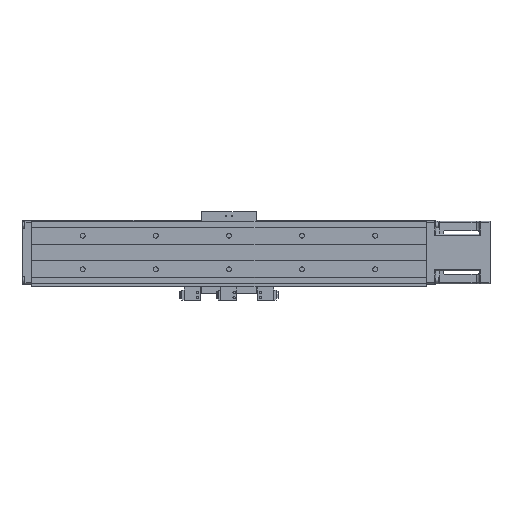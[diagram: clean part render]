
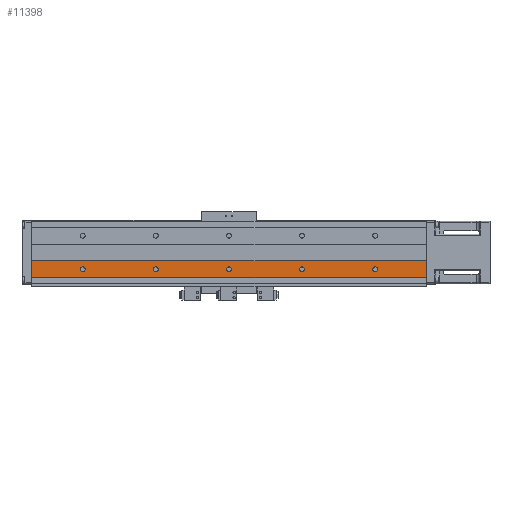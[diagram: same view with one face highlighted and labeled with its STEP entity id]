
A CAD part, front view. The second image highlights one B-rep face of the part: STEP entity #11398.
In plain terms, the highlighted planar face has unit normal (0, -1, 0).
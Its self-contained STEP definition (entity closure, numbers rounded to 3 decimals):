
#216 = DIRECTION ( 'NONE',  ( 0., 1., 0. ) ) ;
#590 = EDGE_CURVE ( 'NONE', #11312, #1572, #32945, .T. ) ;
#594 = AXIS2_PLACEMENT_3D ( 'NONE', #18806, #9737, #21995 ) ;
#825 = ORIENTED_EDGE ( 'NONE', *, *, #38059, .T. ) ;
#1175 = EDGE_LOOP ( 'NONE', ( #17143, #825 ) ) ;
#1501 = FACE_BOUND ( 'NONE', #4646, .T. ) ;
#1572 = VERTEX_POINT ( 'NONE', #38592 ) ;
#2042 = DIRECTION ( 'NONE',  ( 0., 1., 0. ) ) ;
#2384 = EDGE_CURVE ( 'NONE', #15456, #17211, #25882, .T. ) ;
#2502 = DIRECTION ( 'NONE',  ( 0., 1., 0. ) ) ;
#2575 = VERTEX_POINT ( 'NONE', #32024 ) ;
#2936 = EDGE_LOOP ( 'NONE', ( #40345, #31156, #23072, #20470 ) ) ;
#3258 = CARTESIAN_POINT ( 'NONE',  ( -50., -32., -26.3 ) ) ;
#3829 = VERTEX_POINT ( 'NONE', #4199 ) ;
#3921 = DIRECTION ( 'NONE',  ( 0., 1., 0. ) ) ;
#4080 = CARTESIAN_POINT ( 'NONE',  ( 220., -32., -33.6 ) ) ;
#4199 = CARTESIAN_POINT ( 'NONE',  ( 220., -32., -11.5 ) ) ;
#4334 = CARTESIAN_POINT ( 'NONE',  ( -520., -32., -34. ) ) ;
#4646 = EDGE_LOOP ( 'NONE', ( #35735, #19713 ) ) ;
#4862 = DIRECTION ( 'NONE',  ( 0., 1., 0. ) ) ;
#5382 = AXIS2_PLACEMENT_3D ( 'NONE', #39584, #4862, #32836 ) ;
#5426 = EDGE_LOOP ( 'NONE', ( #7543, #20273 ) ) ;
#5612 = CARTESIAN_POINT ( 'NONE',  ( -150., -32., -26.3 ) ) ;
#6283 = CARTESIAN_POINT ( 'NONE',  ( -150., -32., -19.7 ) ) ;
#6465 = CARTESIAN_POINT ( 'NONE',  ( 50., -32., -19.7 ) ) ;
#6818 = VECTOR ( 'NONE', #19924, 1000. ) ;
#7031 = AXIS2_PLACEMENT_3D ( 'NONE', #7094, #3921, #13583 ) ;
#7094 = CARTESIAN_POINT ( 'NONE',  ( -50., -32., -23. ) ) ;
#7264 = DIRECTION ( 'NONE',  ( 0., -1., 0. ) ) ;
#7543 = ORIENTED_EDGE ( 'NONE', *, *, #2384, .T. ) ;
#8601 = CARTESIAN_POINT ( 'NONE',  ( -320., -32., -11.5 ) ) ;
#9439 = VERTEX_POINT ( 'NONE', #5612 ) ;
#9737 = DIRECTION ( 'NONE',  ( 0., 1., 0. ) ) ;
#10202 = CARTESIAN_POINT ( 'NONE',  ( 150., -32., -26.3 ) ) ;
#10204 = CIRCLE ( 'NONE', #5382, 3.3 ) ;
#10327 = CIRCLE ( 'NONE', #32557, 3.3 ) ;
#10384 = FACE_BOUND ( 'NONE', #14680, .T. ) ;
#10774 = CIRCLE ( 'NONE', #27511, 3.3 ) ;
#11312 = VERTEX_POINT ( 'NONE', #28521 ) ;
#11398 = ADVANCED_FACE ( 'NONE', ( #20269, #1501, #10384, #33054, #36047, #29138 ), #16639, .T. ) ;
#13244 = EDGE_CURVE ( 'NONE', #35108, #28998, #28516, .T. ) ;
#13329 = DIRECTION ( 'NONE',  ( 0., 0., -1. ) ) ;
#13381 = AXIS2_PLACEMENT_3D ( 'NONE', #18249, #15111, #37671 ) ;
#13450 = DIRECTION ( 'NONE',  ( 0., 0., 1. ) ) ;
#13583 = DIRECTION ( 'NONE',  ( 0., 0., -1. ) ) ;
#13953 = CARTESIAN_POINT ( 'NONE',  ( -320., -32., -34. ) ) ;
#14680 = EDGE_LOOP ( 'NONE', ( #17623, #40388 ) ) ;
#14999 = EDGE_CURVE ( 'NONE', #23979, #3829, #39195, .T. ) ;
#15111 = DIRECTION ( 'NONE',  ( 0., 1., 0. ) ) ;
#15456 = VERTEX_POINT ( 'NONE', #15760 ) ;
#15760 = CARTESIAN_POINT ( 'NONE',  ( 50., -32., -26.3 ) ) ;
#16090 = EDGE_CURVE ( 'NONE', #28109, #9439, #24571, .T. ) ;
#16554 = VERTEX_POINT ( 'NONE', #26262 ) ;
#16639 = PLANE ( 'NONE',  #31349 ) ;
#16700 = AXIS2_PLACEMENT_3D ( 'NONE', #27342, #2502, #30509 ) ;
#16763 = DIRECTION ( 'NONE',  ( 0., 1., 0. ) ) ;
#17143 = ORIENTED_EDGE ( 'NONE', *, *, #17916, .T. ) ;
#17178 = DIRECTION ( 'NONE',  ( 1., 0., 0. ) ) ;
#17211 = VERTEX_POINT ( 'NONE', #6465 ) ;
#17375 = CIRCLE ( 'NONE', #30012, 3.3 ) ;
#17561 = CIRCLE ( 'NONE', #16700, 3.3 ) ;
#17623 = ORIENTED_EDGE ( 'NONE', *, *, #23373, .T. ) ;
#17916 = EDGE_CURVE ( 'NONE', #20040, #16554, #27959, .T. ) ;
#18249 = CARTESIAN_POINT ( 'NONE',  ( 50., -32., -23. ) ) ;
#18307 = AXIS2_PLACEMENT_3D ( 'NONE', #25203, #216, #35091 ) ;
#18662 = CARTESIAN_POINT ( 'NONE',  ( 220., -32., -34. ) ) ;
#18806 = CARTESIAN_POINT ( 'NONE',  ( 150., -32., -23. ) ) ;
#19713 = ORIENTED_EDGE ( 'NONE', *, *, #30859, .T. ) ;
#19924 = DIRECTION ( 'NONE',  ( 1., 0., 0. ) ) ;
#20040 = VERTEX_POINT ( 'NONE', #3258 ) ;
#20269 = FACE_OUTER_BOUND ( 'NONE', #2936, .T. ) ;
#20273 = ORIENTED_EDGE ( 'NONE', *, *, #29851, .T. ) ;
#20470 = ORIENTED_EDGE ( 'NONE', *, *, #36763, .F. ) ;
#20615 = LINE ( 'NONE', #4334, #6818 ) ;
#20978 = DIRECTION ( 'NONE',  ( 0., 0., -1. ) ) ;
#21995 = DIRECTION ( 'NONE',  ( 0., 0., -1. ) ) ;
#23072 = ORIENTED_EDGE ( 'NONE', *, *, #14999, .T. ) ;
#23373 = EDGE_CURVE ( 'NONE', #9439, #28109, #10327, .T. ) ;
#23378 = CARTESIAN_POINT ( 'NONE',  ( -520., -32., -11.5 ) ) ;
#23979 = VERTEX_POINT ( 'NONE', #18662 ) ;
#24448 = EDGE_CURVE ( 'NONE', #38658, #2575, #10204, .T. ) ;
#24571 = CIRCLE ( 'NONE', #36786, 3.3 ) ;
#25203 = CARTESIAN_POINT ( 'NONE',  ( -250., -32., -23. ) ) ;
#25680 = EDGE_LOOP ( 'NONE', ( #29496, #31934 ) ) ;
#25882 = CIRCLE ( 'NONE', #13381, 3.3 ) ;
#26262 = CARTESIAN_POINT ( 'NONE',  ( -50., -32., -19.7 ) ) ;
#26997 = CARTESIAN_POINT ( 'NONE',  ( -150., -32., -23. ) ) ;
#27295 = DIRECTION ( 'NONE',  ( 0., 0., -1. ) ) ;
#27342 = CARTESIAN_POINT ( 'NONE',  ( -250., -32., -23. ) ) ;
#27511 = AXIS2_PLACEMENT_3D ( 'NONE', #35200, #16763, #13329 ) ;
#27959 = CIRCLE ( 'NONE', #7031, 3.3 ) ;
#28109 = VERTEX_POINT ( 'NONE', #6283 ) ;
#28199 = CARTESIAN_POINT ( 'NONE',  ( -50., -32., -23. ) ) ;
#28480 = DIRECTION ( 'NONE',  ( 0., 1., 0. ) ) ;
#28516 = LINE ( 'NONE', #33772, #35894 ) ;
#28521 = CARTESIAN_POINT ( 'NONE',  ( -250., -32., -26.3 ) ) ;
#28826 = VECTOR ( 'NONE', #13450, 1000. ) ;
#28998 = VERTEX_POINT ( 'NONE', #13953 ) ;
#29138 = FACE_BOUND ( 'NONE', #25680, .T. ) ;
#29279 = LINE ( 'NONE', #23378, #38612 ) ;
#29323 = DIRECTION ( 'NONE',  ( -1., 0., 0. ) ) ;
#29496 = ORIENTED_EDGE ( 'NONE', *, *, #24448, .T. ) ;
#29851 = EDGE_CURVE ( 'NONE', #17211, #15456, #10774, .T. ) ;
#29878 = EDGE_CURVE ( 'NONE', #28998, #23979, #20615, .T. ) ;
#29895 = DIRECTION ( 'NONE',  ( 0., 1., 0. ) ) ;
#30012 = AXIS2_PLACEMENT_3D ( 'NONE', #28199, #28480, #34216 ) ;
#30509 = DIRECTION ( 'NONE',  ( 0., 0., -1. ) ) ;
#30859 = EDGE_CURVE ( 'NONE', #1572, #11312, #17561, .T. ) ;
#31156 = ORIENTED_EDGE ( 'NONE', *, *, #29878, .T. ) ;
#31349 = AXIS2_PLACEMENT_3D ( 'NONE', #4080, #7264, #29323 ) ;
#31934 = ORIENTED_EDGE ( 'NONE', *, *, #31940, .T. ) ;
#31940 = EDGE_CURVE ( 'NONE', #2575, #38658, #36280, .T. ) ;
#32024 = CARTESIAN_POINT ( 'NONE',  ( 150., -32., -19.7 ) ) ;
#32297 = CARTESIAN_POINT ( 'NONE',  ( 220., -32., -34. ) ) ;
#32557 = AXIS2_PLACEMENT_3D ( 'NONE', #36523, #2042, #27295 ) ;
#32836 = DIRECTION ( 'NONE',  ( 0., 0., -1. ) ) ;
#32945 = CIRCLE ( 'NONE', #18307, 3.3 ) ;
#33054 = FACE_BOUND ( 'NONE', #1175, .T. ) ;
#33772 = CARTESIAN_POINT ( 'NONE',  ( -320., -32., -16.8 ) ) ;
#34216 = DIRECTION ( 'NONE',  ( 0., 0., -1. ) ) ;
#35091 = DIRECTION ( 'NONE',  ( 0., 0., -1. ) ) ;
#35108 = VERTEX_POINT ( 'NONE', #8601 ) ;
#35200 = CARTESIAN_POINT ( 'NONE',  ( 50., -32., -23. ) ) ;
#35735 = ORIENTED_EDGE ( 'NONE', *, *, #590, .T. ) ;
#35894 = VECTOR ( 'NONE', #20978, 1000. ) ;
#36047 = FACE_BOUND ( 'NONE', #5426, .T. ) ;
#36280 = CIRCLE ( 'NONE', #594, 3.3 ) ;
#36523 = CARTESIAN_POINT ( 'NONE',  ( -150., -32., -23. ) ) ;
#36624 = DIRECTION ( 'NONE',  ( 0., 0., -1. ) ) ;
#36763 = EDGE_CURVE ( 'NONE', #35108, #3829, #29279, .T. ) ;
#36786 = AXIS2_PLACEMENT_3D ( 'NONE', #26997, #29895, #36624 ) ;
#37671 = DIRECTION ( 'NONE',  ( 0., 0., -1. ) ) ;
#38059 = EDGE_CURVE ( 'NONE', #16554, #20040, #17375, .T. ) ;
#38592 = CARTESIAN_POINT ( 'NONE',  ( -250., -32., -19.7 ) ) ;
#38612 = VECTOR ( 'NONE', #17178, 1000. ) ;
#38658 = VERTEX_POINT ( 'NONE', #10202 ) ;
#39195 = LINE ( 'NONE', #32297, #28826 ) ;
#39584 = CARTESIAN_POINT ( 'NONE',  ( 150., -32., -23. ) ) ;
#40345 = ORIENTED_EDGE ( 'NONE', *, *, #13244, .T. ) ;
#40388 = ORIENTED_EDGE ( 'NONE', *, *, #16090, .T. ) ;
